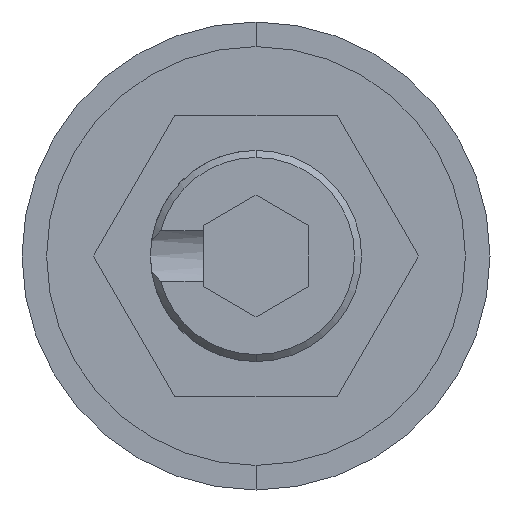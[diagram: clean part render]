
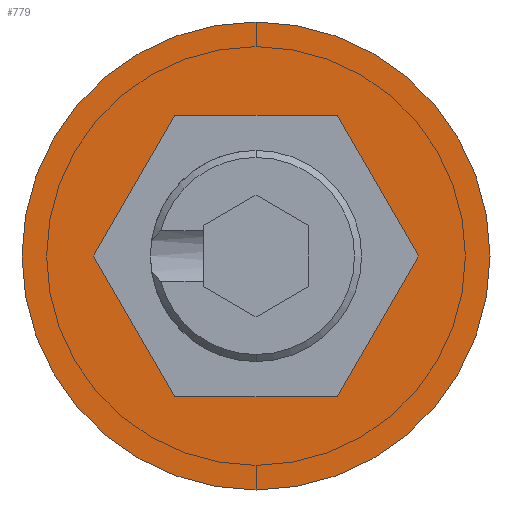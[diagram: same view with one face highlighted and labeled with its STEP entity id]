
A CAD part, front view. The second image highlights one B-rep face of the part: STEP entity #779.
In plain terms, the highlighted planar face has unit normal (0, -1, 0).
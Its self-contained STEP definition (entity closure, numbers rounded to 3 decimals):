
#9 = DIRECTION ( 'NONE',  ( -1., 0., 0. ) ) ;
#107 = VECTOR ( 'NONE', #1506, 1000. ) ;
#111 = AXIS2_PLACEMENT_3D ( 'NONE', #1841, #1375, #1307 ) ;
#115 = LINE ( 'NONE', #1850, #107 ) ;
#123 = EDGE_CURVE ( 'NONE', #1621, #499, #502, .T. ) ;
#169 = DIRECTION ( 'NONE',  ( -0.5, 0., -0.866 ) ) ;
#178 = CARTESIAN_POINT ( 'NONE',  ( -2.309, 0., 4. ) ) ;
#194 = AXIS2_PLACEMENT_3D ( 'NONE', #1213, #1662, #1231 ) ;
#254 = EDGE_CURVE ( 'NONE', #1173, #1612, #312, .T. ) ;
#296 = EDGE_CURVE ( 'NONE', #1612, #2053, #115, .T. ) ;
#305 = VECTOR ( 'NONE', #1115, 1000. ) ;
#312 = LINE ( 'NONE', #1122, #305 ) ;
#320 = LINE ( 'NONE', #428, #1984 ) ;
#344 = CARTESIAN_POINT ( 'NONE',  ( 2.309, 0., -4. ) ) ;
#365 = CARTESIAN_POINT ( 'NONE',  ( 0., 0., -6.65 ) ) ;
#428 = CARTESIAN_POINT ( 'NONE',  ( 4.619, 0., 0. ) ) ;
#441 = VECTOR ( 'NONE', #9, 1000. ) ;
#499 = VERTEX_POINT ( 'NONE', #2040 ) ;
#502 = LINE ( 'NONE', #2004, #441 ) ;
#548 = DIRECTION ( 'NONE',  ( -0.5, 0., 0.866 ) ) ;
#620 = CARTESIAN_POINT ( 'NONE',  ( 2.309, 0., 4. ) ) ;
#722 = CIRCLE ( 'NONE', #111, 6.65 ) ;
#734 = EDGE_LOOP ( 'NONE', ( #1738, #1786 ) ) ;
#736 = DIRECTION ( 'NONE',  ( 0.5, 0., -0.866 ) ) ;
#779 = ADVANCED_FACE ( 'NONE', ( #1067, #978 ), #1168, .T. ) ;
#830 = CARTESIAN_POINT ( 'NONE',  ( -4.619, 0., 0. ) ) ;
#858 = VERTEX_POINT ( 'NONE', #1452 ) ;
#978 = FACE_OUTER_BOUND ( 'NONE', #734, .T. ) ;
#1007 = ORIENTED_EDGE ( 'NONE', *, *, #1119, .F. ) ;
#1067 = FACE_BOUND ( 'NONE', #1311, .T. ) ;
#1078 = VERTEX_POINT ( 'NONE', #365 ) ;
#1115 = DIRECTION ( 'NONE',  ( 1., 0., 0. ) ) ;
#1119 = EDGE_CURVE ( 'NONE', #499, #1972, #2086, .T. ) ;
#1122 = CARTESIAN_POINT ( 'NONE',  ( -2.309, 0., -4. ) ) ;
#1161 = VECTOR ( 'NONE', #736, 1000. ) ;
#1168 = PLANE ( 'NONE',  #194 ) ;
#1173 = VERTEX_POINT ( 'NONE', #1953 ) ;
#1213 = CARTESIAN_POINT ( 'NONE',  ( 0., 0., 0. ) ) ;
#1231 = DIRECTION ( 'NONE',  ( 0., 0., -1. ) ) ;
#1291 = ORIENTED_EDGE ( 'NONE', *, *, #296, .F. ) ;
#1307 = DIRECTION ( 'NONE',  ( 0., 0., -1. ) ) ;
#1310 = CIRCLE ( 'NONE', #1695, 6.65 ) ;
#1311 = EDGE_LOOP ( 'NONE', ( #2061, #1764, #1007, #1338, #1710, #1291 ) ) ;
#1330 = EDGE_CURVE ( 'NONE', #2053, #1621, #320, .T. ) ;
#1338 = ORIENTED_EDGE ( 'NONE', *, *, #123, .F. ) ;
#1368 = EDGE_CURVE ( 'NONE', #1972, #1173, #1942, .T. ) ;
#1375 = DIRECTION ( 'NONE',  ( 0., -1., 0. ) ) ;
#1394 = EDGE_CURVE ( 'NONE', #858, #1078, #722, .T. ) ;
#1452 = CARTESIAN_POINT ( 'NONE',  ( 0., 0., 6.65 ) ) ;
#1506 = DIRECTION ( 'NONE',  ( 0.5, 0., 0.866 ) ) ;
#1580 = CARTESIAN_POINT ( 'NONE',  ( 4.619, 0., 0. ) ) ;
#1612 = VERTEX_POINT ( 'NONE', #344 ) ;
#1621 = VERTEX_POINT ( 'NONE', #620 ) ;
#1662 = DIRECTION ( 'NONE',  ( 0., -1., 0. ) ) ;
#1695 = AXIS2_PLACEMENT_3D ( 'NONE', #2065, #1988, #1931 ) ;
#1710 = ORIENTED_EDGE ( 'NONE', *, *, #1330, .F. ) ;
#1738 = ORIENTED_EDGE ( 'NONE', *, *, #1967, .T. ) ;
#1764 = ORIENTED_EDGE ( 'NONE', *, *, #1368, .F. ) ;
#1786 = ORIENTED_EDGE ( 'NONE', *, *, #1394, .T. ) ;
#1841 = CARTESIAN_POINT ( 'NONE',  ( 0., 0., 0. ) ) ;
#1850 = CARTESIAN_POINT ( 'NONE',  ( 2.309, 0., -4. ) ) ;
#1931 = DIRECTION ( 'NONE',  ( 0., 0., -1. ) ) ;
#1942 = LINE ( 'NONE', #830, #1161 ) ;
#1953 = CARTESIAN_POINT ( 'NONE',  ( -2.309, 0., -4. ) ) ;
#1967 = EDGE_CURVE ( 'NONE', #1078, #858, #1310, .T. ) ;
#1972 = VERTEX_POINT ( 'NONE', #2071 ) ;
#1984 = VECTOR ( 'NONE', #548, 1000. ) ;
#1988 = DIRECTION ( 'NONE',  ( 0., -1., 0. ) ) ;
#2004 = CARTESIAN_POINT ( 'NONE',  ( 2.309, 0., 4. ) ) ;
#2040 = CARTESIAN_POINT ( 'NONE',  ( -2.309, 0., 4. ) ) ;
#2046 = VECTOR ( 'NONE', #169, 1000. ) ;
#2053 = VERTEX_POINT ( 'NONE', #1580 ) ;
#2061 = ORIENTED_EDGE ( 'NONE', *, *, #254, .F. ) ;
#2065 = CARTESIAN_POINT ( 'NONE',  ( 0., 0., 0. ) ) ;
#2071 = CARTESIAN_POINT ( 'NONE',  ( -4.619, 0., 0. ) ) ;
#2086 = LINE ( 'NONE', #178, #2046 ) ;
